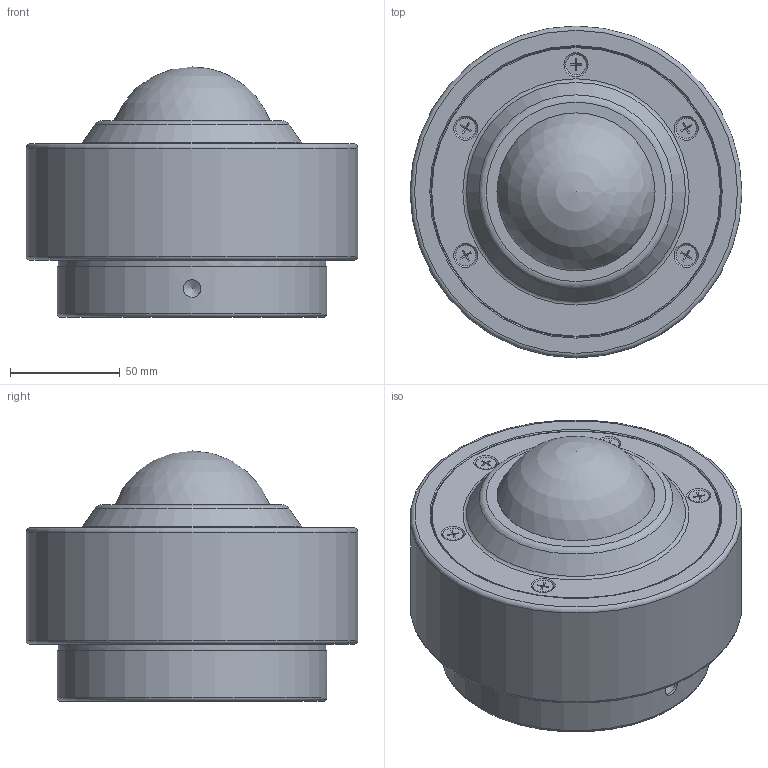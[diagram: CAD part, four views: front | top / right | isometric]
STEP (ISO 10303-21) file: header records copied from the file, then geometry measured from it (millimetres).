
FILE_DESCRIPTION(/* description */ (''),/* implementation_level */ '2;1');
FILE_NAME(/* name */ 'Z:\80-CAD共有ファイル\製品3D\X2\30C730FC30BF\X0\\21-S\S-76.stp',/* time_stamp */ '2015-01-06T16:07:01+09:00',/* author */ ('yamaki'),/* organization */ (''),/* preprocessor_version */ 'ST-DEVELOPER v15.6',/* originating_system */ 'Autodesk Inventor 2015',/* authorisation */ '');
FILE_SCHEMA (('AUTOMOTIVE_DESIGN { 1 0 10303 214 3 1 1 }'));
Length unit declared in the file: millimetre
Products named in the file (3): 2176AT-01; 7620; 2176AT
Bounding box: 151.2 x 151.2 x 114 mm (x, y, z)
Volume: 1384116.3 mm3; surface area: 100601.9 mm2
Topology: 2 solids, 2 shells, 160 faces, 298 edges, 155 vertices
Faces by surface type: plane 133, cylinder 11, cone 9, torus 5, sphere 2
Full cylindrical faces by diameter (mm): 8 x1, 9.3 x5, 122 x1, 123 x1, 131.5 x1, 132.3 x1, 151.2 x1
Entity records: 3751 total; most frequent: DIRECTION 624, CARTESIAN_POINT 603, ORIENTED_EDGE 518, EDGE_CURVE 259, LINE 220, VECTOR 220, AXIS2_PLACEMENT_3D 202, EDGE_LOOP 201
